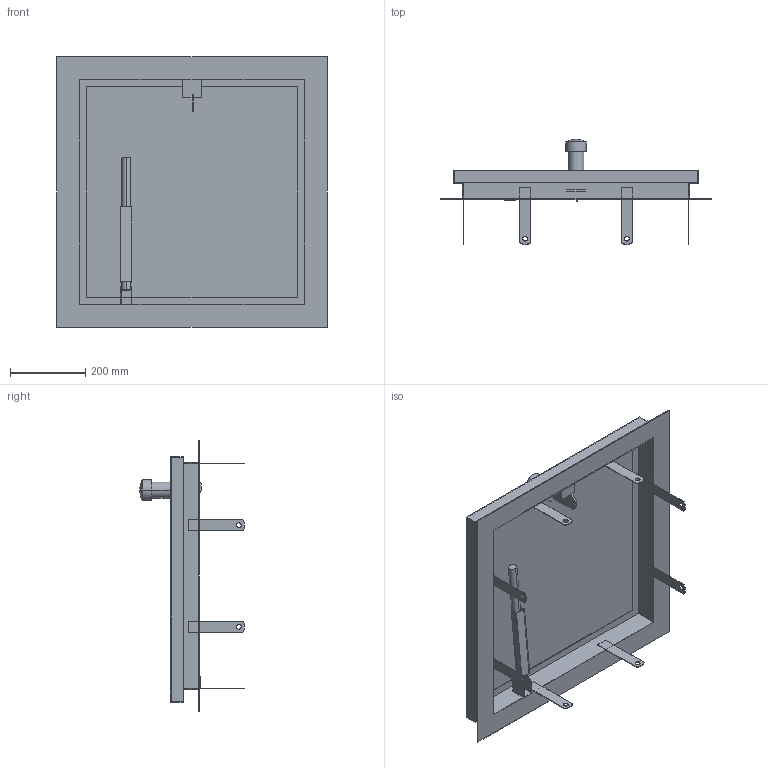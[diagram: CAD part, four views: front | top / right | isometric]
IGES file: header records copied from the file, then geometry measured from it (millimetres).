
Start section:  PTC IGES file: 52335807.igs
Global section: file name: 52335807.igs; native system: Creo Parametric by PTC Inc.; preprocessor: 2022162; author: wep; organization: Unknown; date: 20241219.070932; units: millimetre
Bounding box: 720 x 279 x 720 mm (x, y, z)
Surface area: 1868470.5 mm2 (no closed solid volume)
Topology: 0 solids, 0 shells, 728 faces, 3966 edges, 3964 vertices
Faces by surface type: bspline 416, extrusion 275, revolution 37
